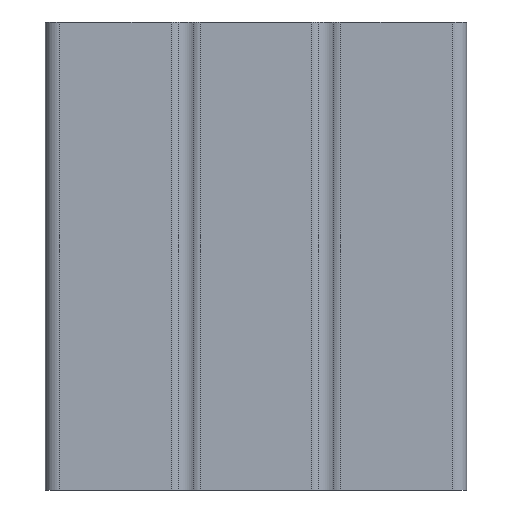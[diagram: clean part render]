
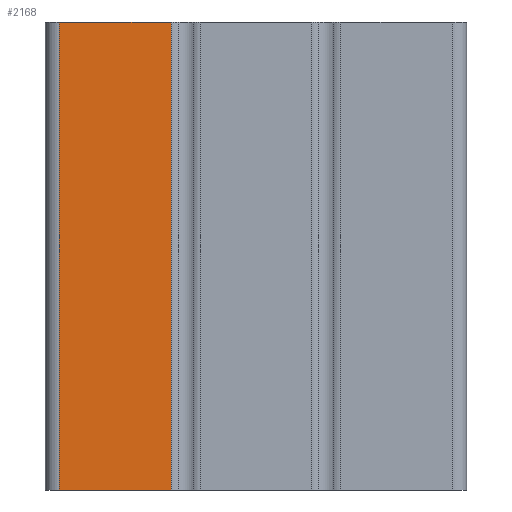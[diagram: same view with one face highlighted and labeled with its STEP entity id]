
A CAD part, front view. The second image highlights one B-rep face of the part: STEP entity #2168.
In plain terms, the highlighted planar face has unit normal (0, -1, 0).
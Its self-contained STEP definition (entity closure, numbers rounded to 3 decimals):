
#2 = VECTOR ( 'NONE', #110, 1000. ) ;
#110 = DIRECTION ( 'NONE',  ( 1., 0., 0. ) ) ;
#121 = ORIENTED_EDGE ( 'NONE', *, *, #1189, .T. ) ;
#217 = FACE_OUTER_BOUND ( 'NONE', #521, .T. ) ;
#237 = EDGE_CURVE ( 'NONE', #1268, #2186, #1304, .T. ) ;
#399 = ORIENTED_EDGE ( 'NONE', *, *, #237, .F. ) ;
#432 = DIRECTION ( 'NONE',  ( 0., 0., -1. ) ) ;
#473 = CARTESIAN_POINT ( 'NONE',  ( -42., -15., 0. ) ) ;
#510 = LINE ( 'NONE', #473, #2 ) ;
#521 = EDGE_LOOP ( 'NONE', ( #121, #399, #870, #1088 ) ) ;
#600 = VERTEX_POINT ( 'NONE', #954 ) ;
#695 = EDGE_CURVE ( 'NONE', #600, #1268, #1646, .T. ) ;
#702 = DIRECTION ( 'NONE',  ( 0., 1., 0. ) ) ;
#774 = VERTEX_POINT ( 'NONE', #1544 ) ;
#821 = DIRECTION ( 'NONE',  ( 1., 0., 0. ) ) ;
#827 = CARTESIAN_POINT ( 'NONE',  ( -18.096, -15., 100. ) ) ;
#870 = ORIENTED_EDGE ( 'NONE', *, *, #695, .F. ) ;
#954 = CARTESIAN_POINT ( 'NONE',  ( -42., -15., 100. ) ) ;
#1048 = PLANE ( 'NONE',  #1194 ) ;
#1052 = EDGE_CURVE ( 'NONE', #600, #774, #1139, .T. ) ;
#1088 = ORIENTED_EDGE ( 'NONE', *, *, #1052, .T. ) ;
#1139 = LINE ( 'NONE', #1818, #1534 ) ;
#1189 = EDGE_CURVE ( 'NONE', #774, #2186, #510, .T. ) ;
#1192 = VECTOR ( 'NONE', #821, 1000. ) ;
#1194 = AXIS2_PLACEMENT_3D ( 'NONE', #1248, #702, #1396 ) ;
#1209 = CARTESIAN_POINT ( 'NONE',  ( -18.096, -15., 0. ) ) ;
#1229 = VECTOR ( 'NONE', #1800, 1000. ) ;
#1248 = CARTESIAN_POINT ( 'NONE',  ( -42., -15., 100. ) ) ;
#1268 = VERTEX_POINT ( 'NONE', #827 ) ;
#1274 = CARTESIAN_POINT ( 'NONE',  ( -18.096, -15., 100. ) ) ;
#1304 = LINE ( 'NONE', #1274, #1229 ) ;
#1396 = DIRECTION ( 'NONE',  ( 0., 0., 1. ) ) ;
#1534 = VECTOR ( 'NONE', #432, 1000. ) ;
#1544 = CARTESIAN_POINT ( 'NONE',  ( -42., -15., 0. ) ) ;
#1646 = LINE ( 'NONE', #1857, #1192 ) ;
#1800 = DIRECTION ( 'NONE',  ( 0., 0., -1. ) ) ;
#1818 = CARTESIAN_POINT ( 'NONE',  ( -42., -15., 100. ) ) ;
#1857 = CARTESIAN_POINT ( 'NONE',  ( -42., -15., 100. ) ) ;
#2168 = ADVANCED_FACE ( 'NONE', ( #217 ), #1048, .F. ) ;
#2186 = VERTEX_POINT ( 'NONE', #1209 ) ;
